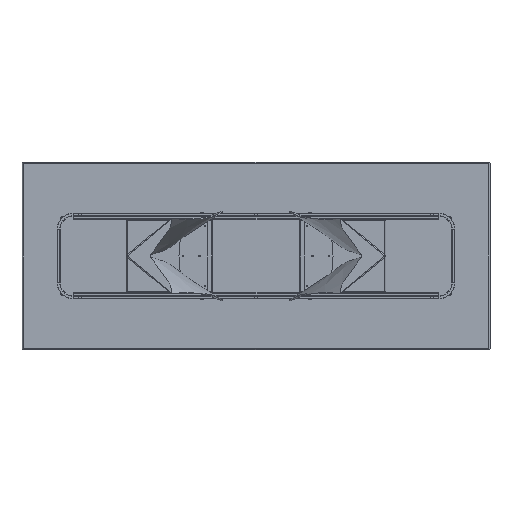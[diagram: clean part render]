
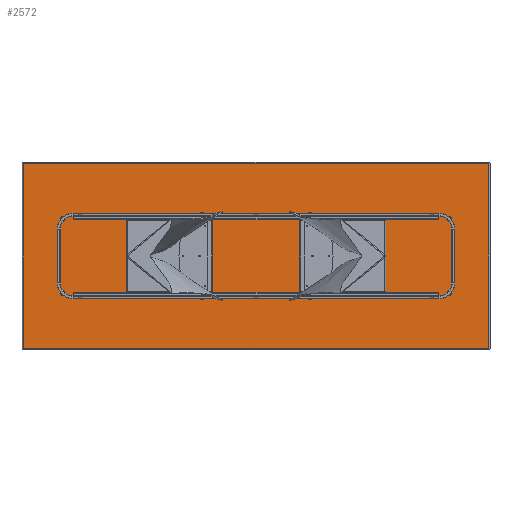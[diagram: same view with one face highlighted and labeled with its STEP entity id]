
A CAD part, front view. The second image highlights one B-rep face of the part: STEP entity #2572.
In plain terms, the highlighted planar face has unit normal (0, -1, 0).
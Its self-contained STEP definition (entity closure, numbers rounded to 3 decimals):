
#81 = CARTESIAN_POINT ( 'NONE',  ( 1492., 0., -592. ) ) ;
#326 = LINE ( 'NONE', #15163, #6064 ) ;
#823 = LINE ( 'NONE', #4467, #9496 ) ;
#1819 = LINE ( 'NONE', #4051, #6965 ) ;
#1989 = ORIENTED_EDGE ( 'NONE', *, *, #16645, .T. ) ;
#2572 = ADVANCED_FACE ( 'NONE', ( #8164 ), #22433, .F. ) ;
#2749 = CARTESIAN_POINT ( 'NONE',  ( 0., 0., 0. ) ) ;
#3288 = ORIENTED_EDGE ( 'NONE', *, *, #22251, .T. ) ;
#4051 = CARTESIAN_POINT ( 'NONE',  ( 0., 0., 592. ) ) ;
#4467 = CARTESIAN_POINT ( 'NONE',  ( 1492., 0., 0. ) ) ;
#5808 = CARTESIAN_POINT ( 'NONE',  ( -1492., 0., 0. ) ) ;
#6064 = VECTOR ( 'NONE', #6205, 1000. ) ;
#6205 = DIRECTION ( 'NONE',  ( 1., 0., 0. ) ) ;
#6274 = DIRECTION ( 'NONE',  ( 0., 1., 0. ) ) ;
#6965 = VECTOR ( 'NONE', #9341, 1000. ) ;
#8000 = CARTESIAN_POINT ( 'NONE',  ( -1492., 0., 592. ) ) ;
#8164 = FACE_OUTER_BOUND ( 'NONE', #17593, .T. ) ;
#8267 = VERTEX_POINT ( 'NONE', #81 ) ;
#9341 = DIRECTION ( 'NONE',  ( -1., 0., 0. ) ) ;
#9496 = VECTOR ( 'NONE', #14960, 1000. ) ;
#12521 = VERTEX_POINT ( 'NONE', #16912 ) ;
#12524 = EDGE_CURVE ( 'NONE', #14877, #8267, #326, .T. ) ;
#14490 = ORIENTED_EDGE ( 'NONE', *, *, #12524, .T. ) ;
#14877 = VERTEX_POINT ( 'NONE', #18682 ) ;
#14960 = DIRECTION ( 'NONE',  ( 0., 0., 1. ) ) ;
#15163 = CARTESIAN_POINT ( 'NONE',  ( 0., 0., -592. ) ) ;
#16645 = EDGE_CURVE ( 'NONE', #17619, #14877, #16651, .T. ) ;
#16651 = LINE ( 'NONE', #5808, #21538 ) ;
#16912 = CARTESIAN_POINT ( 'NONE',  ( 1492., 0., 592. ) ) ;
#17568 = EDGE_CURVE ( 'NONE', #8267, #12521, #823, .T. ) ;
#17593 = EDGE_LOOP ( 'NONE', ( #20650, #3288, #1989, #14490 ) ) ;
#17619 = VERTEX_POINT ( 'NONE', #8000 ) ;
#18682 = CARTESIAN_POINT ( 'NONE',  ( -1492., 0., -592. ) ) ;
#20644 = DIRECTION ( 'NONE',  ( 0., 0., 1. ) ) ;
#20650 = ORIENTED_EDGE ( 'NONE', *, *, #17568, .T. ) ;
#20780 = AXIS2_PLACEMENT_3D ( 'NONE', #2749, #6274, #20644 ) ;
#21538 = VECTOR ( 'NONE', #22093, 1000. ) ;
#22093 = DIRECTION ( 'NONE',  ( 0., 0., -1. ) ) ;
#22251 = EDGE_CURVE ( 'NONE', #12521, #17619, #1819, .T. ) ;
#22433 = PLANE ( 'NONE',  #20780 ) ;
